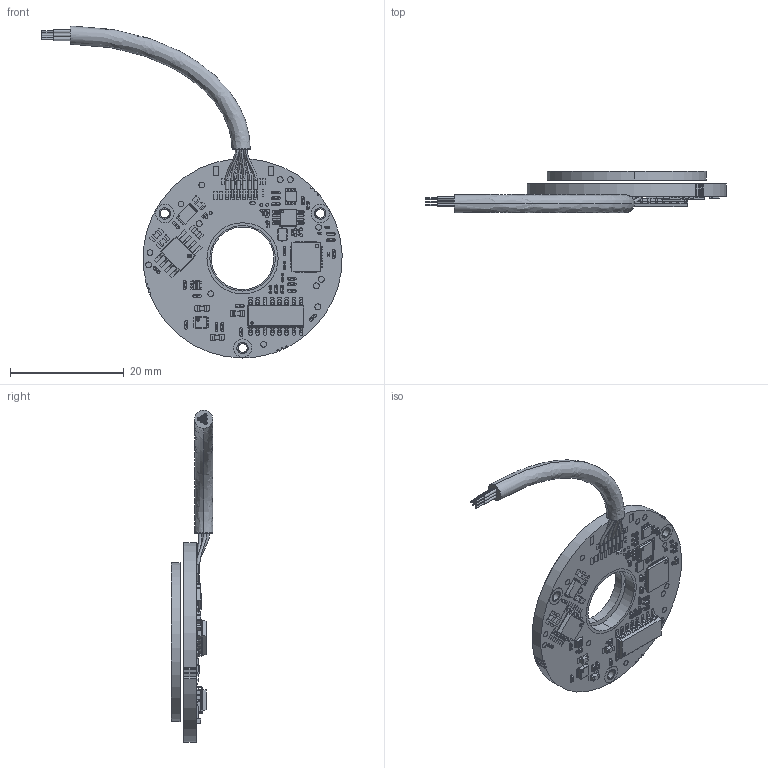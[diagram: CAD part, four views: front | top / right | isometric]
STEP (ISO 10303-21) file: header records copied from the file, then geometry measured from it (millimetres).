
FILE_DESCRIPTION (( 'STEP AP214' ), '1' );
FILE_NAME ('VLP-35 Hollow rotor.STEP', '2025-10-20T08:09:25', ( '' ), ( '' ), 'SwSTEP 2.0', 'SolidWorks 2022', '' );
FILE_SCHEMA (( 'AUTOMOTIVE_DESIGN' ));
Length unit declared in the file: millimetre
Products named in the file (6): PB-00552_Fine 16 Coarse 15; VLP-35 Hollow rotor; EA-00142_Without connector; VLP-35 cable_Flying leads; PB-00142-00-STP_Without connector; PB-00142_F 16 C 15
Assembly tree (5 placements, depth 3):
  VLP-35 Hollow rotor
    EA-00142_Without connector
      PB-00142_F 16 C 15
      PB-00142-00-STP_Without connector
    PB-00552_Fine 16 Coarse 15
    VLP-35 cable_Flying leads
Bounding box: 52.74 x 7.33 x 58.3 mm (x, y, z)
Volume: 3018 mm3; surface area: 4546.8 mm2
Topology: 15 solids, 262 shells, 7081 faces, 17336 edges, 11284 vertices
Faces by surface type: plane 4505, cylinder 1249, bspline 1185, sphere 132, cone 6, torus 4
Entity records: 349674 total; most frequent: CARTESIAN_POINT 110030, ORIENTED_EDGE 34384, DIRECTION 29214, EDGE_CURVE 17208, VECTOR 12282, LINE 12282, VERTEX_POINT 11284, AXIS2_PLACEMENT_3D 8466
